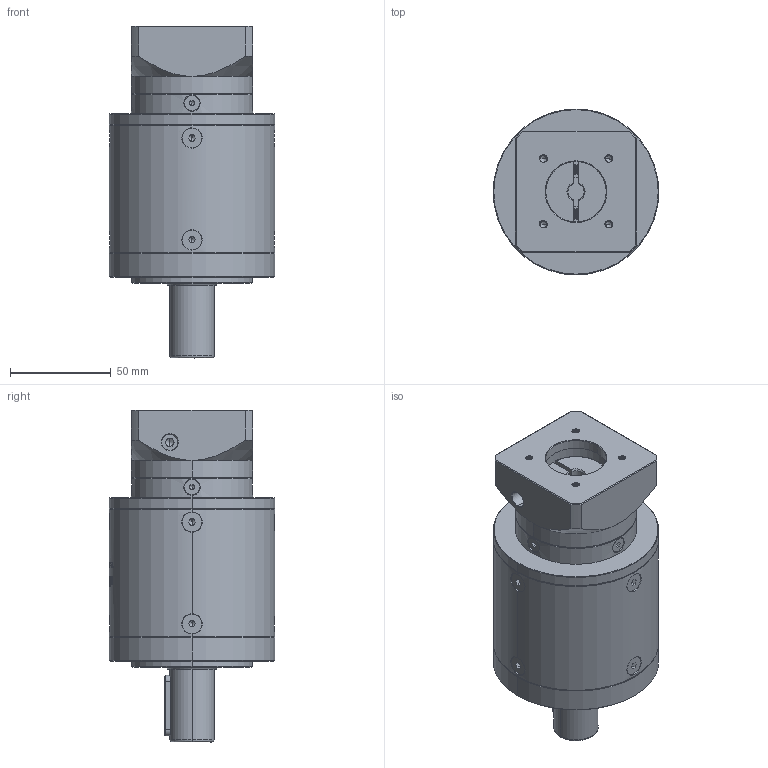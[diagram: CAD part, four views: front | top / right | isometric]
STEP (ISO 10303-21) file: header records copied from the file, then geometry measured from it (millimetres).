
FILE_DESCRIPTION (( 'STEP AP214' ), '1' );
FILE_NAME ('ZE80-D22-L3-8-30-46-M4.step', '2022-05-08T06:05:41', ( '' ), ( 'Microsoft' ), 'SwSTEP 2.0', 'SolidWorks 2016', '' );
FILE_SCHEMA (( 'AUTOMOTIVE_DESIGN' ));
Length unit declared in the file: millimetre
Products named in the file (1): ZE80-D22-L3-8-30-46-M4
Bounding box: 82 x 82 x 164.5 mm (x, y, z)
Volume: 556218.3 mm3; surface area: 70065.6 mm2
Topology: 18 solids, 18 shells, 2087 faces, 5493 edges, 3497 vertices
Faces by surface type: plane 943, cylinder 485, bspline 340, cone 305, torus 14
Entity records: 116129 total; most frequent: CARTESIAN_POINT 45751, ORIENTED_EDGE 10894, DIRECTION 8477, EDGE_CURVE 5447, VERTEX_POINT 3497, VECTOR 2899, LINE 2899, AXIS2_PLACEMENT_3D 2789
